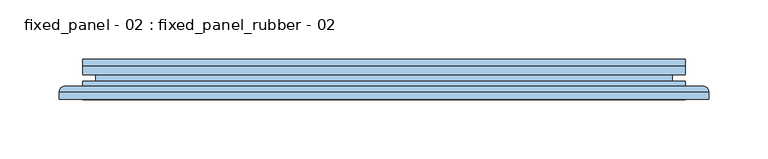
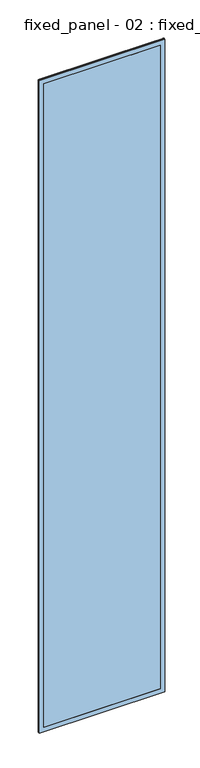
"""IFC4 building model written with IfcOpenShell, lengths in millimetres: window geometry, fixed_panel - 02 : fixed_panel_rubber - 02."""

from ifc_helpers import new_model, si_unit, frame, origin, place, context, project, spatial, polyline, ellipse_curve, outline, extrude, faceted_brep, source, transform, mapped, element, save
from ifc_brep_helpers import plane_surface, cylinder_surface, advanced_brep


def fixed_panel_02_fixed_panel_rubber_02_43b58ed7(model_context):
    return source(origin(), model_context, "Body", "SolidModel", [
        advanced_brep(
        [(254.9999306, -27.9878211, 2960.0), (259.9999306, -22.9878211, 2965.0), (259.9999306, -22.9878211, -25.0), (254.9999306, -27.9878211, -20.0), (269.9976085, -22.9878211, -34.9976779), (-269.9976085, -22.9878211, -34.9976779), (-269.9976085, -22.9878211, 2974.9976779), (269.9976085, -22.9878211, 2974.9976779), (-259.9999306, -22.9878211, 2965.0), (-259.9999306, -22.9878211, -25.0), (-254.9999306, -27.9878211, -20.0), (254.9999306, -34.0, 2960.0), (254.9999306, -34.0, -20.0), (-254.9999306, -34.0, -20.0), (274.9932841, -34.0, 2979.9933535), (-274.9932841, -34.0, 2979.9933535), (-274.9932841, -34.0, -39.9933535), (274.9932841, -34.0, -39.9933535), (-254.9999306, -34.0, 2960.0), (274.9932841, -27.9834967, 2979.9933535), (274.9932841, -27.9834967, -39.9933535), (-274.9932841, -27.9834967, -39.9933535), (-254.9999306, -27.9878211, 2960.0), (-274.9932841, -27.9834967, 2979.9933535)],
        [
            (0, 1, ellipse_curve(frame((259.9999306, -27.9878211, 2965.0), z_axis=(0.7071067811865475, 0.0, -0.7071067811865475), x_axis=(0.7071067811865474, 0.0, 0.7071067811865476)), 7.0710678, 5.0)),
            (1, 2),
            (2, 3, ellipse_curve(frame((259.9999306, -27.9878211, -25.0), z_axis=(0.7071067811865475, 0.0, 0.7071067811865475), x_axis=(-0.7071067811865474, 0.0, 0.7071067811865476)), 7.0710678, 5.0)),
            (3, 0),
            (4, 5),
            (5, 6),
            (6, 7),
            (7, 4),
            (1, 8),
            (8, 9),
            (9, 2),
            (9, 10, ellipse_curve(frame((-259.9999306, -27.9878211, -25.0), z_axis=(0.7071067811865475, 0.0, -0.7071067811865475), x_axis=(0.7071067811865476, 0.0, 0.7071067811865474)), 7.0710678, 5.0)),
            (10, 3),
            (11, 0),
            (3, 12),
            (12, 11),
            (10, 13),
            (13, 12),
            (14, 15),
            (15, 16),
            (16, 17),
            (17, 14),
            (13, 18),
            (18, 11),
            (19, 14),
            (17, 20),
            (20, 19),
            (16, 21),
            (21, 20),
            (7, 19, ellipse_curve(frame((269.9976085, -27.9834967, 2974.9976779), z_axis=(0.7071067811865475, 0.0, -0.7071067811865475), x_axis=(0.7071067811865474, 0.0, 0.7071067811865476)), 7.0649521, 4.9956756)),
            (20, 4, ellipse_curve(frame((269.9976085, -27.9834967, -34.9976779), z_axis=(0.7071067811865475, 0.0, 0.7071067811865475), x_axis=(-0.7071067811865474, 0.0, 0.7071067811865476)), 7.0649521, 4.9956756)),
            (21, 5, ellipse_curve(frame((-269.9976085, -27.9834967, -34.9976779), z_axis=(0.7071067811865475, 0.0, -0.7071067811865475), x_axis=(0.7071067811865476, 0.0, 0.7071067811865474)), 7.0649521, 4.9956756)),
            (8, 22, ellipse_curve(frame((-259.9999306, -27.9878211, 2965.0), z_axis=(-0.7071067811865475, 0.0, -0.7071067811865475), x_axis=(0.7071067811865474, 0.0, -0.7071067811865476)), 7.0710678, 5.0)),
            (22, 10),
            (22, 18),
            (15, 23),
            (23, 21),
            (23, 6, ellipse_curve(frame((-269.9976085, -27.9834967, 2974.9976779), z_axis=(-0.7071067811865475, 0.0, -0.7071067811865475), x_axis=(0.7071067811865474, 0.0, -0.7071067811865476)), 7.0649521, 4.9956756)),
            (0, 22),
            (19, 23),
        ],
        [
            cylinder_surface(frame((259.9999306, -27.9878211, 2960.0), z_axis=(0.0, 0.0, 1.0), x_axis=(1.0, 0.0, 0.0)), 5.0),
            plane_surface(frame((-269.9976085, -22.9878211, 2974.9976779), z_axis=(0.0, 1.0, 0.0), x_axis=(1.0, 0.0, 0.0))),
            cylinder_surface(frame((254.9999306, -27.9878211, -25.0), z_axis=(1.0, 0.0, 0.0), x_axis=(0.0, 0.0, -1.0)), 5.0),
            plane_surface(frame((254.9999306, -27.9878211, 2960.0), z_axis=(-1.0, 0.0, 0.0), x_axis=(0.0, 0.0, -1.0))),
            plane_surface(frame((254.9999306, -27.9878211, -20.0), z_axis=(0.0, 0.0, 1.0), x_axis=(-1.0, 0.0, 0.0))),
            plane_surface(frame((-254.9999306, -34.0, 2960.0), z_axis=(0.0, -1.0, 0.0), x_axis=(1.0, 0.0, 0.0))),
            plane_surface(frame((274.9932841, -34.0, 2979.9933535), z_axis=(1.0, 0.0, 0.0), x_axis=(0.0, 0.0, -1.0))),
            plane_surface(frame((274.9932841, -34.0, -39.9933535), z_axis=(0.0, 0.0, -1.0), x_axis=(-1.0, 0.0, 0.0))),
            cylinder_surface(frame((269.9976085, -27.9834967, 2960.0), z_axis=(0.0, 0.0, 1.0), x_axis=(1.0, 0.0, 0.0)), 4.9956756),
            cylinder_surface(frame((254.9999306, -27.9834967, -34.9976779), z_axis=(1.0, 0.0, 0.0), x_axis=(0.0, 0.0, -1.0)), 4.9956756),
            cylinder_surface(frame((-259.9999306, -27.9878211, -20.0), z_axis=(0.0, 0.0, -1.0), x_axis=(-1.0, 0.0, 0.0)), 5.0),
            plane_surface(frame((-254.9999306, -27.9878211, -20.0), z_axis=(1.0, 0.0, 0.0), x_axis=(0.0, 0.0, 1.0))),
            plane_surface(frame((-274.9932841, -34.0, -39.9933535), z_axis=(-1.0, 0.0, 0.0), x_axis=(0.0, 0.0, 1.0))),
            cylinder_surface(frame((-269.9976085, -27.9834967, -20.0), z_axis=(0.0, 0.0, -1.0), x_axis=(-1.0, 0.0, 0.0)), 4.9956756),
            cylinder_surface(frame((-254.9999306, -27.9878211, 2965.0), z_axis=(-1.0, 0.0, 0.0), x_axis=(0.0, 0.0, 1.0)), 5.0),
            plane_surface(frame((-254.9999306, -27.9878211, 2960.0), z_axis=(0.0, 0.0, -1.0), x_axis=(1.0, 0.0, 0.0))),
            plane_surface(frame((-274.9932841, -34.0, 2979.9933535), z_axis=(0.0, 0.0, 1.0), x_axis=(1.0, 0.0, 0.0))),
            cylinder_surface(frame((-254.9999306, -27.9834967, 2974.9976779), z_axis=(-1.0, 0.0, 0.0), x_axis=(0.0, 0.0, 1.0)), 4.9956756),
        ],
        [
            (0, [[1, 2, 3, 4]]),
            (1, [[5, 6, 7, 8], [9, 10, 11, -2]]),
            (2, [[-3, -11, 12, 13]]),
            (3, [[14, -4, 15, 16]]),
            (4, [[-15, -13, 17, 18]]),
            (5, [[19, 20, 21, 22], [-18, 23, 24, -16]]),
            (6, [[25, -22, 26, 27]]),
            (7, [[-26, -21, 28, 29]]),
            (8, [[30, -27, 31, -8]]),
            (9, [[-31, -29, 32, -5]]),
            (10, [[-12, -10, 33, 34]]),
            (11, [[-17, -34, 35, -23]]),
            (12, [[-28, -20, 36, 37]]),
            (13, [[-32, -37, 38, -6]]),
            (14, [[-33, -9, -1, 39]]),
            (15, [[-35, -39, -14, -24]]),
            (16, [[-36, -19, -25, 40]]),
            (17, [[-38, -40, -30, -7]]),
        ],
    ),
        faceted_brep([(228.9999306, -26.0, 2934.0), (228.9999306, -6.0, 2934.0), (228.9999306, -6.0, 6.0), (228.9999306, -26.0, 6.0), (254.9999306, -6.0, -20.0), (-254.9999306, -6.0, -20.0), (-254.9999306, -6.0, 2960.0), (254.9999306, -6.0, 2960.0), (-228.9999306, -6.0, 2934.0), (-228.9999306, -6.0, 6.0), (-228.9999306, -26.0, 6.0), (254.9999306, -26.0, 2960.0), (-254.9999306, -26.0, 2960.0), (-254.9999306, -26.0, -20.0), (254.9999306, -26.0, -20.0), (-228.9999306, -26.0, 2934.0), (254.9999306, -18.8, 2960.0), (254.9999306, -18.8, -20.0), (-254.9999306, -18.8, -20.0), (-254.9999306, -18.8, 2960.0), (243.9999306, -18.8, 2949.0), (-243.9999306, -18.8, 2949.0), (-243.9999306, -18.8, -9.0), (243.9999306, -18.8, -9.0), (243.9999306, -13.2, 2949.0), (243.9999306, -13.2, -9.0), (-243.9999306, -13.2, -9.0), (254.9999306, -13.2, 2960.0), (-254.9999306, -13.2, 2960.0), (-254.9999306, -13.2, -20.0), (254.9999306, -13.2, -20.0), (-243.9999306, -13.2, 2949.0)], [[[0, 1, 2, 3]], [[4, 5, 6, 7], [1, 8, 9, 2]], [[3, 2, 9, 10]], [[11, 12, 13, 14], [3, 10, 15, 0]], [[16, 11, 14, 17]], [[17, 14, 13, 18]], [[17, 18, 19, 16], [20, 21, 22, 23]], [[24, 20, 23, 25]], [[25, 23, 22, 26]], [[27, 28, 29, 30], [25, 26, 31, 24]], [[7, 27, 30, 4]], [[4, 30, 29, 5]], [[10, 9, 8, 15]], [[18, 13, 12, 19]], [[26, 22, 21, 31]], [[5, 29, 28, 6]], [[15, 8, 1, 0]], [[19, 12, 11, 16]], [[31, 21, 20, 24]], [[6, 28, 27, 7]]]),
        extrude(outline(polyline([(254.9999306, -34.0), (-254.9999306, -34.0), (-254.9999306, -26.0), (254.9999306, -26.0), (254.9999306, -34.0)])), frame((0.0, 0.0, -20.0), z_axis=(0.0, 0.0, 1.0), x_axis=(1.0, 0.0, 0.0)), (0.0, 0.0, 1.0), 2980.0),
        extrude(outline(polyline([(254.9999306, -6.0), (-254.9999306, -6.0), (-254.9999306, 0.0), (254.9999306, 0.0), (254.9999306, -6.0)])), frame((0.0, 0.0, -20.0), z_axis=(0.0, 0.0, 1.0), x_axis=(1.0, 0.0, 0.0)), (0.0, 0.0, 1.0), 2980.0),
    ])


if __name__ == "__main__":
    model = new_model("IFC4")
    model_context = context("Model", 3, world=origin())
    ifc_project = project(units=[si_unit("LENGTHUNIT", "METRE", prefix="MILLI")], contexts=[model_context])
    site = spatial("IfcSite", under=ifc_project)
    building = spatial("IfcBuilding", under=site)
    placement = place(None, origin())
    fixed_panel_02_fixed_panel_rubber_02_shape = fixed_panel_02_fixed_panel_rubber_02_43b58ed7(model_context)
    element("IfcWindow", 1, ObjectType="fixed_panel - 02 : fixed_panel_rubber - 02", at=placement, inside=building, context=model_context, shape_type="MappedRepresentation", body=[
        mapped(fixed_panel_02_fixed_panel_rubber_02_shape, transform((0.0, 0.0, 0.0), x_axis=(1.0, 0.0, 0.0), y_axis=(0.0, 1.0, 0.0), z_axis=(0.0, 0.0, 1.0))),
    ])
    save(model, "model.ifc")
